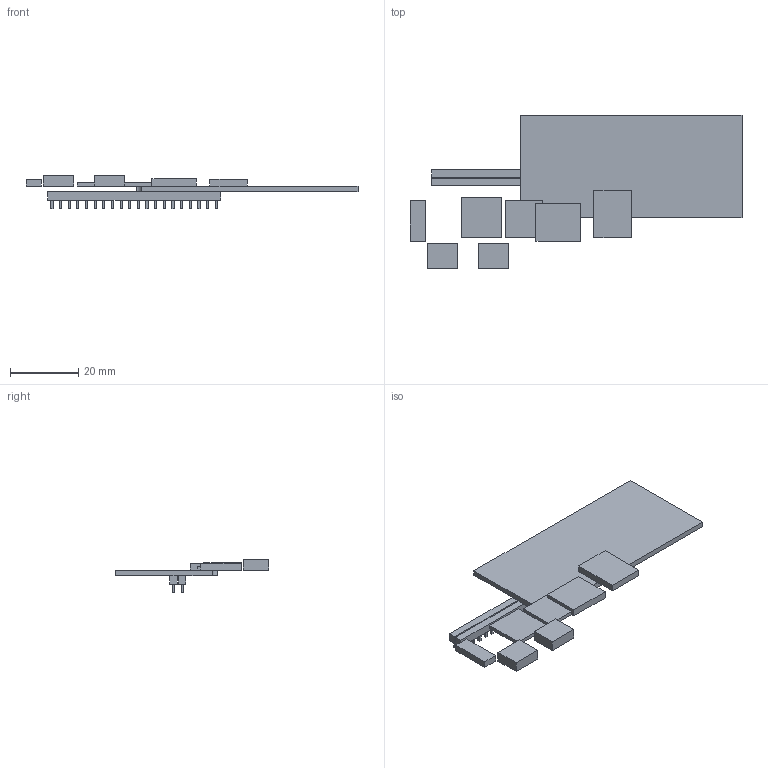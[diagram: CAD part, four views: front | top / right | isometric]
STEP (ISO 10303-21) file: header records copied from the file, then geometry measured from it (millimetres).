
FILE_DESCRIPTION(('Open CASCADE Model'),'2;1');
FILE_NAME('Open CASCADE Shape Model','2026-09-12T19:16:16',('Author'),( 'Open CASCADE'),'Open CASCADE STEP processor 7.9','Open CASCADE 7.9' ,'Unknown');
FILE_SCHEMA(('AUTOMOTIVE_DESIGN { 1 0 10303 214 1 1 1 1 }'));
Length unit declared in the file: millimetre
Products named in the file (6): Open CASCADE STEP translator 7.9 1; Open CASCADE STEP translator 7.9 1.1; Open CASCADE STEP translator 7.9 1.2; Open CASCADE STEP translator 7.9 1.3; Open CASCADE STEP translator 7.9 1.4; Open CASCADE STEP translator 7.9 1.5
Assembly tree (5 placements, depth 2):
  Open CASCADE STEP translator 7.9 1
    Open CASCADE STEP translator 7.9 1.1
    Open CASCADE STEP translator 7.9 1.2
    Open CASCADE STEP translator 7.9 1.3
    Open CASCADE STEP translator 7.9 1.4
    Open CASCADE STEP translator 7.9 1.5
Bounding box: 97.5 x 45 x 9.8 mm (x, y, z)
Volume: 5149 mm3; surface area: 6909.7 mm2
Topology: 5 solids, 5 shells, 260 faces, 622 edges, 412 vertices
Faces by surface type: plane 259, cylinder 1
Entity records: 15216 total; most frequent: CARTESIAN_POINT 2888, DIRECTION 2066, LINE 1530, VECTOR 1530, ORIENTED_EDGE 1244, PCURVE 1244, DEFINITIONAL_REPRESENTATION 1244, EDGE_CURVE 622
